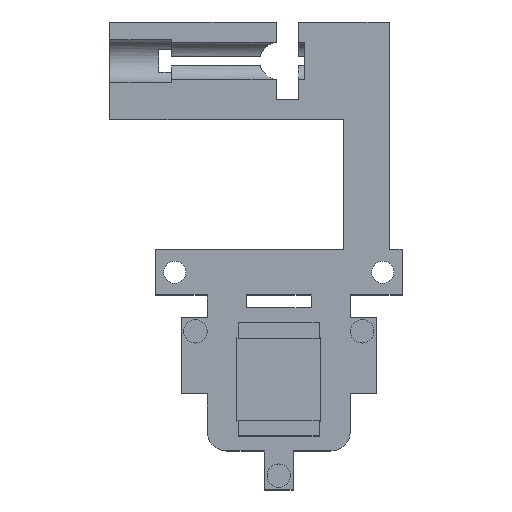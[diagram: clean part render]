
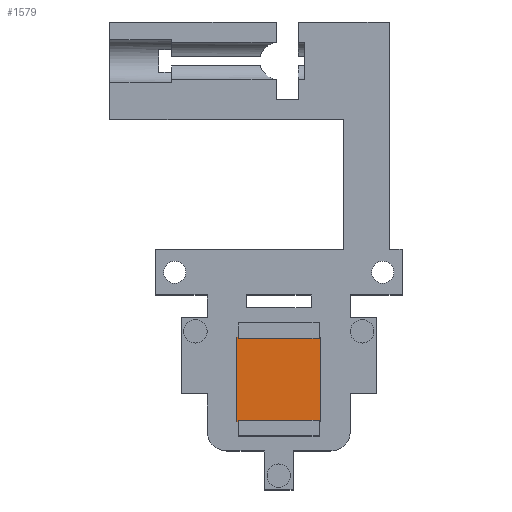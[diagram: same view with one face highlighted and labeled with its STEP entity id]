
A CAD part, top view. The second image highlights one B-rep face of the part: STEP entity #1579.
In plain terms, the highlighted planar face has unit normal (0, 0, 1).
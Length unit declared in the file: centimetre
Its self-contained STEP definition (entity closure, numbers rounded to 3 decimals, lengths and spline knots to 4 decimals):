
#107=FACE_OUTER_BOUND('',#196,.T.);
#196=EDGE_LOOP('',(#1247,#1248,#1249,#1250,#1251,#1252,#1253,#1254,#1255,
#1256,#1257,#1258));
#348=LINE('',#2425,#548);
#352=LINE('',#2433,#552);
#358=LINE('',#2445,#558);
#360=LINE('',#2449,#560);
#366=LINE('',#2461,#566);
#372=LINE('',#2473,#572);
#374=LINE('',#2476,#574);
#375=LINE('',#2479,#575);
#376=LINE('',#2481,#576);
#377=LINE('',#2482,#577);
#378=LINE('',#2484,#578);
#379=LINE('',#2485,#579);
#548=VECTOR('',#1958,1.);
#552=VECTOR('',#1964,1.);
#558=VECTOR('',#1976,1.);
#560=VECTOR('',#1980,1.);
#566=VECTOR('',#1990,1.);
#572=VECTOR('',#2000,1.);
#574=VECTOR('',#2004,1.);
#575=VECTOR('',#2007,1.);
#576=VECTOR('',#2008,1.);
#577=VECTOR('',#2009,1.);
#578=VECTOR('',#2010,1.);
#579=VECTOR('',#2011,1.);
#738=VERTEX_POINT('',#2422);
#739=VERTEX_POINT('',#2424);
#742=VERTEX_POINT('',#2432);
#745=VERTEX_POINT('',#2444);
#746=VERTEX_POINT('',#2448);
#749=VERTEX_POINT('',#2458);
#750=VERTEX_POINT('',#2460);
#753=VERTEX_POINT('',#2470);
#754=VERTEX_POINT('',#2472);
#755=VERTEX_POINT('',#2478);
#756=VERTEX_POINT('',#2480);
#757=VERTEX_POINT('',#2483);
#917=EDGE_CURVE('',#739,#738,#348,.T.);
#921=EDGE_CURVE('',#742,#739,#352,.T.);
#927=EDGE_CURVE('',#745,#742,#358,.T.);
#929=EDGE_CURVE('',#746,#745,#360,.T.);
#935=EDGE_CURVE('',#750,#749,#366,.T.);
#941=EDGE_CURVE('',#754,#753,#372,.T.);
#943=EDGE_CURVE('',#753,#750,#374,.T.);
#944=EDGE_CURVE('',#738,#755,#375,.T.);
#945=EDGE_CURVE('',#755,#756,#376,.T.);
#946=EDGE_CURVE('',#756,#754,#377,.T.);
#947=EDGE_CURVE('',#749,#757,#378,.T.);
#948=EDGE_CURVE('',#757,#746,#379,.T.);
#1247=ORIENTED_EDGE('',*,*,#917,.T.);
#1248=ORIENTED_EDGE('',*,*,#944,.T.);
#1249=ORIENTED_EDGE('',*,*,#945,.T.);
#1250=ORIENTED_EDGE('',*,*,#946,.T.);
#1251=ORIENTED_EDGE('',*,*,#941,.T.);
#1252=ORIENTED_EDGE('',*,*,#943,.T.);
#1253=ORIENTED_EDGE('',*,*,#935,.T.);
#1254=ORIENTED_EDGE('',*,*,#947,.T.);
#1255=ORIENTED_EDGE('',*,*,#948,.T.);
#1256=ORIENTED_EDGE('',*,*,#929,.T.);
#1257=ORIENTED_EDGE('',*,*,#927,.T.);
#1258=ORIENTED_EDGE('',*,*,#921,.T.);
#1501=PLANE('',#1694);
#1579=ADVANCED_FACE('',(#107),#1501,.T.);
#1694=AXIS2_PLACEMENT_3D('',#2477,#2005,#2006);
#1958=DIRECTION('',(0.,1.,0.));
#1964=DIRECTION('',(-1.,0.,0.));
#1976=DIRECTION('',(0.,-1.,0.));
#1980=DIRECTION('',(-1.,0.,0.));
#1990=DIRECTION('',(0.,-1.,0.));
#2000=DIRECTION('',(0.,1.,0.));
#2004=DIRECTION('',(1.,0.,0.));
#2005=DIRECTION('center_axis',(0.,0.,1.));
#2006=DIRECTION('ref_axis',(1.,0.,0.));
#2007=DIRECTION('',(-1.,0.,0.));
#2008=DIRECTION('',(0.,-1.,0.));
#2009=DIRECTION('',(1.,0.,0.));
#2010=DIRECTION('',(1.,0.,0.));
#2011=DIRECTION('',(0.,1.,0.));
#2422=CARTESIAN_POINT('',(-0.62,-4.05,-0.69));
#2424=CARTESIAN_POINT('',(-0.62,-4.07,-0.69));
#2425=CARTESIAN_POINT('',(-0.62,-4.325,-0.69));
#2432=CARTESIAN_POINT('',(0.62,-4.07,-0.69));
#2433=CARTESIAN_POINT('',(0.,-4.07,-0.69));
#2444=CARTESIAN_POINT('',(0.62,-4.05,-0.69));
#2445=CARTESIAN_POINT('',(0.62,-4.325,-0.69));
#2448=CARTESIAN_POINT('',(0.65,-4.05,-0.69));
#2449=CARTESIAN_POINT('',(0.,-4.05,-0.69));
#2458=CARTESIAN_POINT('',(0.62,-5.35,-0.69));
#2460=CARTESIAN_POINT('',(0.62,-5.33,-0.69));
#2461=CARTESIAN_POINT('',(0.62,-5.075,-0.69));
#2470=CARTESIAN_POINT('',(-0.62,-5.33,-0.69));
#2472=CARTESIAN_POINT('',(-0.62,-5.35,-0.69));
#2473=CARTESIAN_POINT('',(-0.62,-5.075,-0.69));
#2476=CARTESIAN_POINT('',(0.,-5.33,-0.69));
#2477=CARTESIAN_POINT('Origin',(0.,-4.7,-0.69));
#2478=CARTESIAN_POINT('',(-0.65,-4.05,-0.69));
#2479=CARTESIAN_POINT('',(0.,-4.05,-0.69));
#2480=CARTESIAN_POINT('',(-0.65,-5.35,-0.69));
#2481=CARTESIAN_POINT('',(-0.65,-4.7,-0.69));
#2482=CARTESIAN_POINT('',(0.,-5.35,-0.69));
#2483=CARTESIAN_POINT('',(0.65,-5.35,-0.69));
#2484=CARTESIAN_POINT('',(0.,-5.35,-0.69));
#2485=CARTESIAN_POINT('',(0.65,-4.7,-0.69));
